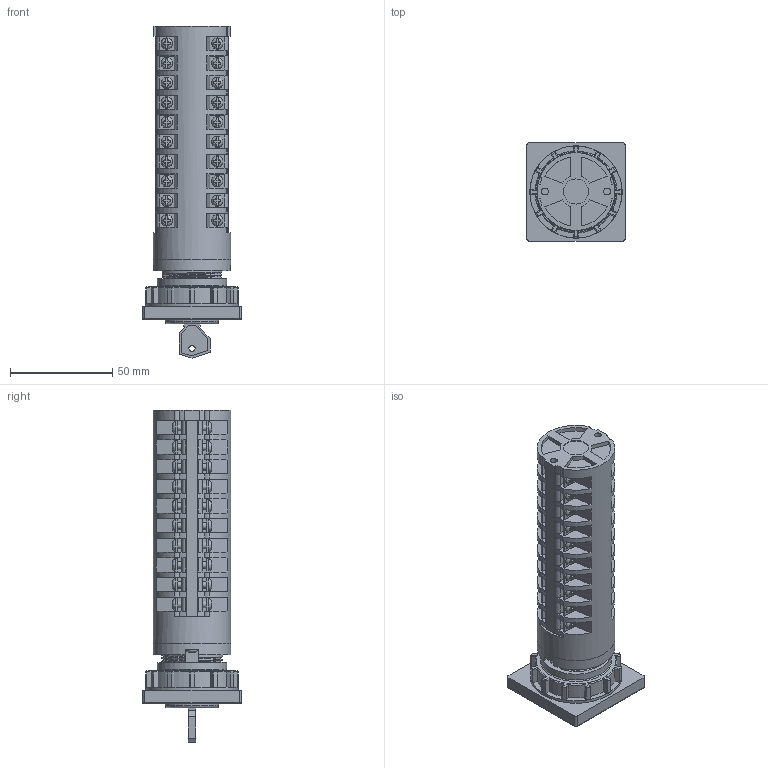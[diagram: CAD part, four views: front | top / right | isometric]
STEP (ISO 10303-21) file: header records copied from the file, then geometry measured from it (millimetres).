
FILE_DESCRIPTION(/* description */ (''),/* implementation_level */ '2;1');
FILE_NAME(/* name */ '4G10-U_wykonanie_S30_10_korpusow.stp',/* time_stamp */ '2021-07-21T09:09:27+02:00',/* author */ (''),/* organization */ (''),/* preprocessor_version */ 'ST-DEVELOPER v18.1',/* originating_system */ 'SIEMENS PLM Software NX 1965',/* authorisation */ '');
FILE_SCHEMA (('AUTOMOTIVE_DESIGN { 1 0 10303 214 3 1 1 1 }'));
Products named in the file (1): 4G10-U_wykonanie_S30_10_korpusow_stp
Bounding box: 48 x 48 x 162.22 mm (x, y, z)
Volume: 147821.1 mm3; surface area: 40677.2 mm2
Topology: 1 solids, 3 shells, 1605 faces, 4392 edges, 2866 vertices
Faces by surface type: plane 1225, cylinder 285, bspline 79, torus 16
Full cylindrical faces by diameter (mm): 3 x1, 3.2 x42, 3.3 x2, 3.4 x2, 12.3 x1, 15 x1, 26 x1, 34 x1, 38 x2, 45 x1
Entity records: 56784 total; most frequent: CARTESIAN_POINT 17046, ORIENTED_EDGE 8448, DIRECTION 7870, EDGE_CURVE 4224, VERTEX_POINT 2820, AXIS2_PLACEMENT_3D 2640, LINE 2590, VECTOR 2590
